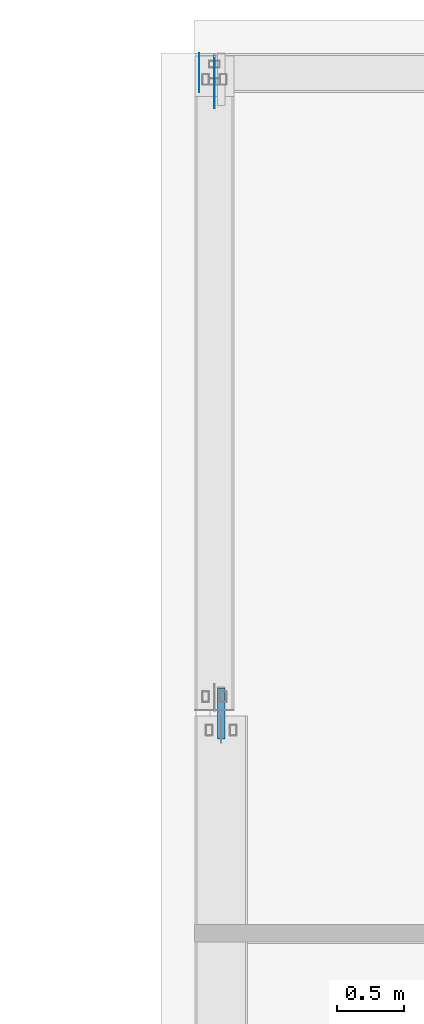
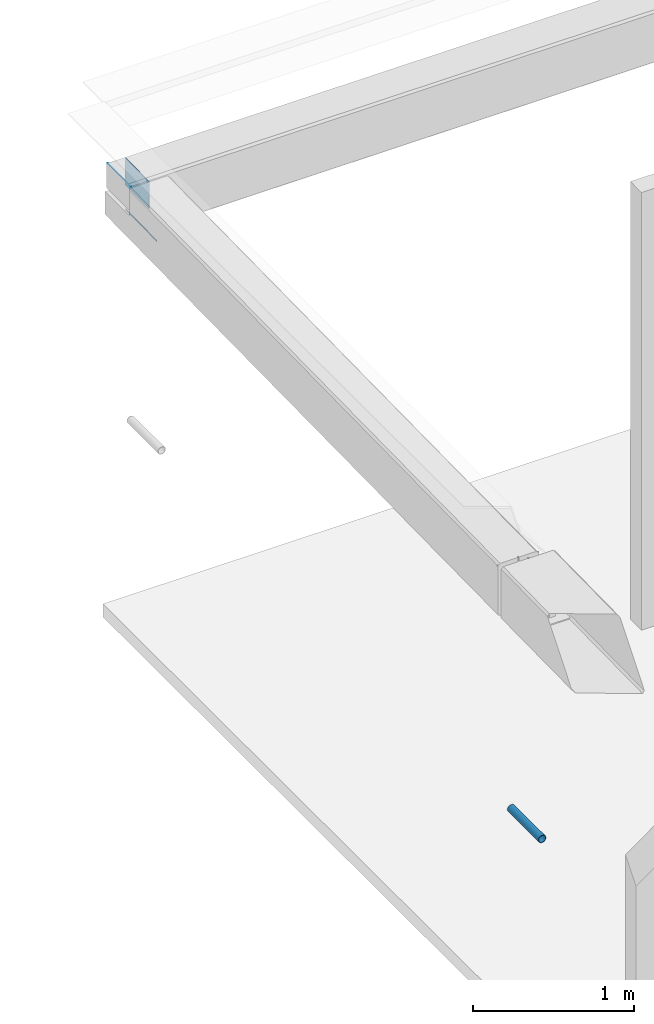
# One storey, part 42 of 186: 4 beams.
"""IFC4X3_ADD2 building model written with IfcOpenShell, lengths in millimetres."""

from ifc_helpers import new_model, si_unit, direction, frame, frame_2d, origin_with_axes, place, context, subcontext, project, spatial, rectangle, hollow_circle, extrude, material, element, save


model = new_model("IFC4X3_ADD2")

# Units and contexts
model_context = context("Model", 3, precision=1e-05, world=origin_with_axes(), true_north=direction((0.0, 1.0)))
body_context = subcontext(model_context, "Body", "Model", "MODEL_VIEW")
ifc_project = project(units=[si_unit("LENGTHUNIT", "METRE", prefix="MILLI"), si_unit("AREAUNIT", "SQUARE_METRE"), si_unit("VOLUMEUNIT", "CUBIC_METRE"), si_unit("PLANEANGLEUNIT", "RADIAN"), si_unit("TIMEUNIT", "SECOND"), si_unit("MASSUNIT", "GRAM")], contexts=[model_context])

# Site, building, storey
site_placement = place(None, origin_with_axes())
site = spatial("IfcSite", under=ifc_project, at=site_placement, Name="Site", CompositionType="ELEMENT")
building_placement = place(site_placement, origin_with_axes())
building = spatial("IfcBuilding", under=site, at=building_placement, Name="IFC Building Story")
storey_placement = place(building_placement, frame((0.0, 0.0, 4370.0), z_axis=(0.0, 0.0, 1.0), x_axis=(1.0, 0.0, 0.0)))
storey = spatial("IfcBuildingStorey", under=building, at=storey_placement, Name="ETAGE 10 (1)", Elevation=4370.0)

# Beams
ifc_material_1 = material(Name="STEEL/Accessory_invisible")
beam_1_placement = place(storey_placement, frame((33235.6882247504, 26405.0496948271, 3334.02909633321), z_axis=(1.0, 0.0, 0.0), x_axis=(0.0, 0.0, 1.0)))
element("IfcBeam", 1, at=beam_1_placement, inside=storey, material=ifc_material_1, Name="ZW3", ObjectType="1*1 11", context=body_context, shape_type="SweptSolid", body=[
    extrude(rectangle(XDim=0.9999999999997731, YDim=289.900000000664, at=frame_2d((0.0, 5.95523630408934e-12), x_axis=(1.0, 0.0))), origin_with_axes(), (0.0, 0.0, 1.0), 1.0),
])
ifc_material_2 = material(Name="STEEL/Accessory_invisible 261")
beam_2_placement = place(storey_placement, frame((33350.6886994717, 26381.6299326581, 3246.87225957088), z_axis=(1.0, 0.0, 0.0), x_axis=(0.0, -0.01552555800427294, 0.9998794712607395)))
element("IfcBeam", 2, at=beam_2_placement, inside=storey, material=ifc_material_2, Name="BEK4", ObjectType="210*1", context=body_context, shape_type="SweptSolid", body=[
    extrude(rectangle(XDim=210.000000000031, YDim=300.036162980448, at=frame_2d((0.0, 5.95523630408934e-12), x_axis=(1.0, 0.0))), origin_with_axes(), (0.0, 0.0, 1.0), 1.0),
])
beam_3_placement = place(storey_placement, frame((33350.6886996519, 26335.0135184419, 2957.113589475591), z_axis=(1.0, 0.0, 0.0), x_axis=(0.0, -0.01552555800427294, 0.9998794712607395)))
element("IfcBeam", 3, at=beam_3_placement, inside=storey, material=ifc_material_2, Name="BEK4", ObjectType="12*1", context=body_context, shape_type="SweptSolid", body=[
    extrude(rectangle(XDim=12.0000000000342, YDim=390.260883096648, at=frame_2d((0.0, 5.95523630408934e-12), x_axis=(1.0, 0.0))), origin_with_axes(), (0.0, 0.0, 1.0), 1.0),
])
ifc_material_3 = material(Name="STEEL/Accessory_PVC")
beam_4_placement = place(storey_placement, frame((33401.1883991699, 21427.9996108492, 1250.0), z_axis=(0.0, 1.0, 0.0), x_axis=(1.0, 0.0, 0.0)))
element("IfcBeam", 4, at=beam_4_placement, inside=storey, material=ifc_material_3, Name="PS13", ObjectType="O56*3", context=body_context, shape_type="SweptSolid", body=[
    extrude(hollow_circle(Radius=28.0, WallThickness=3.0, at=frame_2d((0.0, 5.95523630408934e-12), x_axis=(1.0, 0.0))), origin_with_axes(), (0.0, 0.0, 1.0), 384.0),
])

save(model, "model.ifc")
